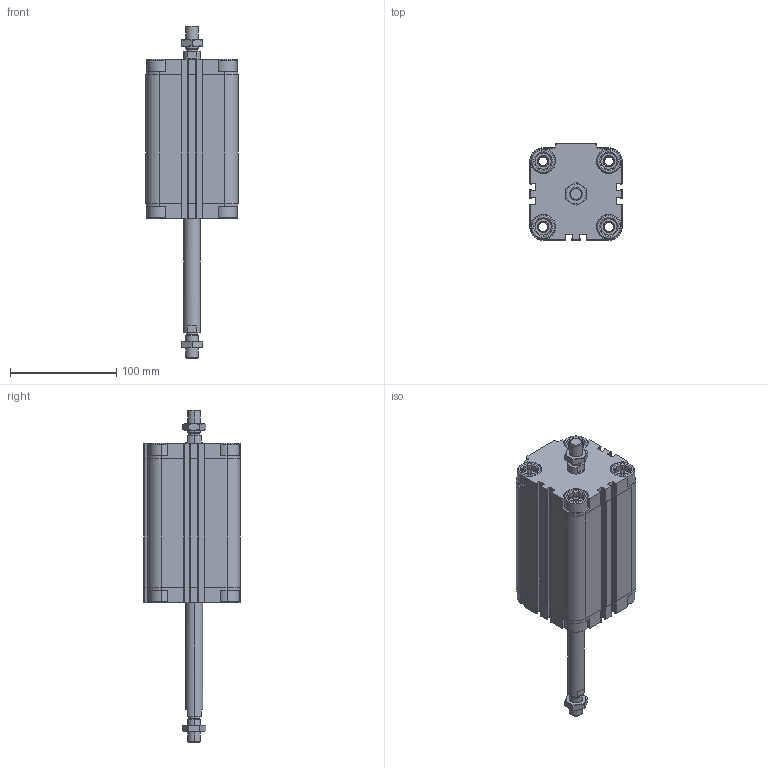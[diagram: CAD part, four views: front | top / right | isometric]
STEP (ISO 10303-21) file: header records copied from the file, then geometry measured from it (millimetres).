
FILE_DESCRIPTION (( 'STEP AP203' ), '1' );
FILE_NAME ('CDVU63-100M-P.STEP', '2020-07-21T15:22:21', ( '' ), ( '' ), 'SwSTEP 2.0', 'SolidWorks 2019', '' );
FILE_SCHEMA (( 'CONFIG_CONTROL_DESIGN' ));
Length unit declared in the file: millimetre
Products named in the file (1): CDVU63-100M-P
Bounding box: 87 x 91 x 313 mm (x, y, z)
Volume: 743597.1 mm3; surface area: 164087.5 mm2
Topology: 4 solids, 4 shells, 658 faces, 1744 edges, 1138 vertices
Faces by surface type: plane 386, cylinder 192, cone 80
Entity records: 21255 total; most frequent: CARTESIAN_POINT 4809, ORIENTED_EDGE 3480, DIRECTION 3322, EDGE_CURVE 1740, AXIS2_PLACEMENT_3D 1139, VERTEX_POINT 1138, LINE 1044, VECTOR 1044
